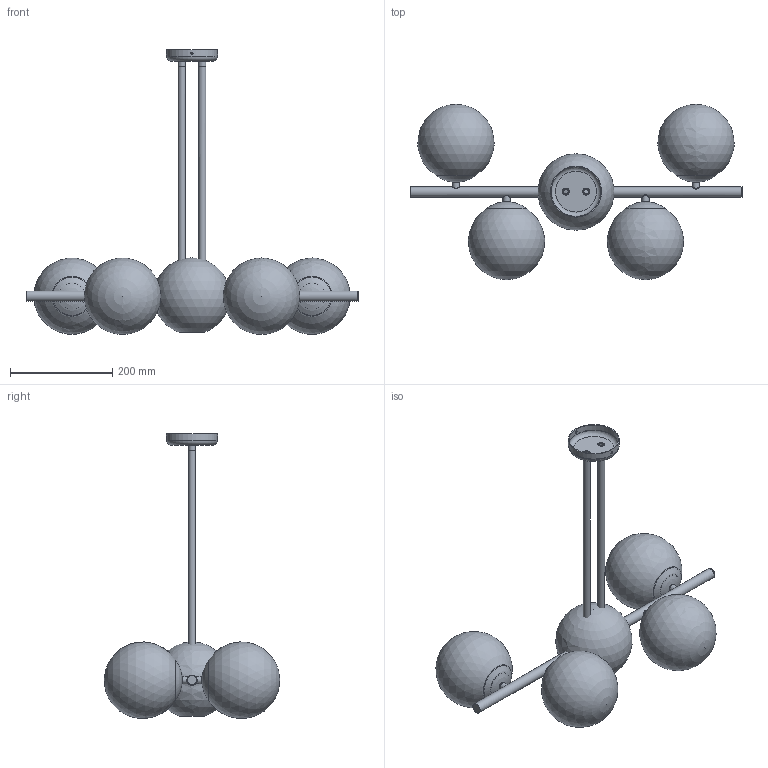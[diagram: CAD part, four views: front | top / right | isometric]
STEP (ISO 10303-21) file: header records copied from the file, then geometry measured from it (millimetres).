
FILE_DESCRIPTION( ( 'STEP AP203' ), '1' );
FILE_NAME( '//srvbf/BF Disegni/ATHENA/ATHENA-S Sospensione 3D.stp', '2020-10-16T13:30:17', ( ' ' ), ( ' ' ), 'XStep 1.0', ' ', ' ' );
FILE_SCHEMA( ( 'CONFIG_CONTROL_DESIGN) ( )' ) );
Length unit declared in the file: metre
Products named in the file (7): Assem1; 1; 2; 3; 4; 5; 6
Bounding box: 650 x 343.42 x 557.92 mm (x, y, z)
Volume: 561753.3 mm3; surface area: 1101063 mm2
Topology: 18 solids, 18 shells, 154 faces, 329 edges, 227 vertices
Faces by surface type: cylinder 70, plane 60, sphere 20, torus 4
Full cylindrical faces by diameter (mm): 4 x4, 8.917 x12, 10 x5, 10.5 x4, 11.8 x4, 12 x12, 14 x16, 18 x2, 20 x2, 48 x5, 97 x2, 100 x2
Entity records: 2988 total; most frequent: CARTESIAN_POINT 1510, DIRECTION 262, EDGE_LOOP 138, ORIENTED_EDGE 138, AXIS2_PLACEMENT_3D 131, FACE_OUTER_BOUND 101, EDGE_CURVE 69, VERTEX_POINT 69
